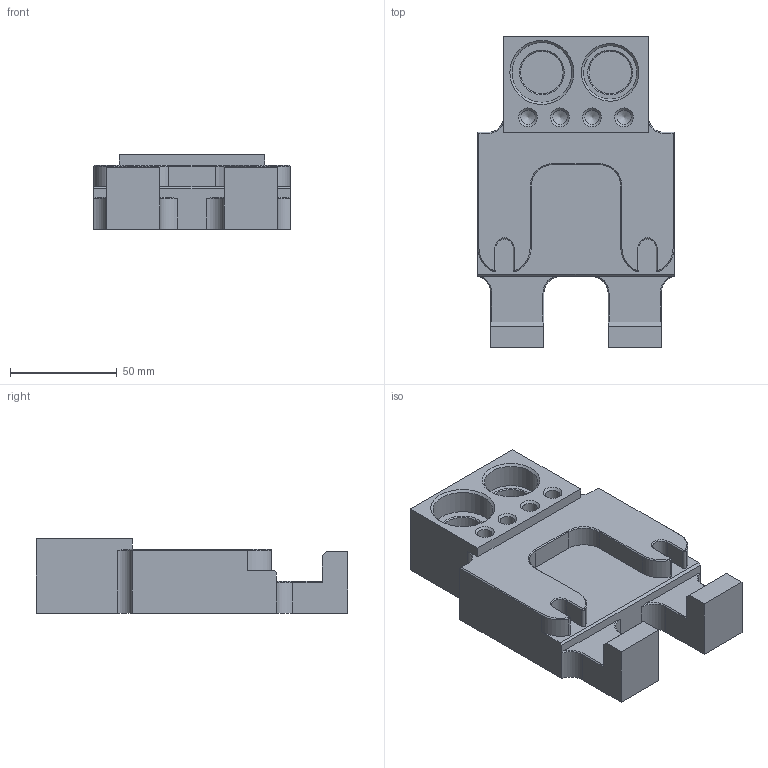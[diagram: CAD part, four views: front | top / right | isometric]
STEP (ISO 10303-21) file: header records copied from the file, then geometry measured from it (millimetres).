
FILE_DESCRIPTION(/* description */ (''),/* implementation_level */ '2;1');
FILE_NAME(/* name */ 'Robot WSUK.step',/* time_stamp */ '2024-03-25T15:15:21Z',/* author */ (''),/* organization */ (''),/* preprocessor_version */ 'ST-DEVELOPER v20',/* originating_system */ 'Autodesk Translation Framework v12.20.1.177',/* authorisation */ '');
FILE_SCHEMA (('AUTOMOTIVE_DESIGN { 1 0 10303 214 3 1 1 }'));
Length unit declared in the file: millimetre
Products named in the file (1): Robot
Bounding box: 92 x 146 x 35 mm (x, y, z)
Volume: 273399.1 mm3; surface area: 46598.1 mm2
Topology: 1 solids, 1 shells, 110 faces, 272 edges, 168 vertices
Faces by surface type: plane 54, cone 30, cylinder 26
Full cylindrical faces by diameter (mm): 6.779 x4, 20 x2, 25 x1, 28 x1
Entity records: 3223 total; most frequent: DIRECTION 564, CARTESIAN_POINT 559, ORIENTED_EDGE 536, EDGE_CURVE 268, AXIS2_PLACEMENT_3D 191, LINE 182, VECTOR 182, VERTEX_POINT 168
